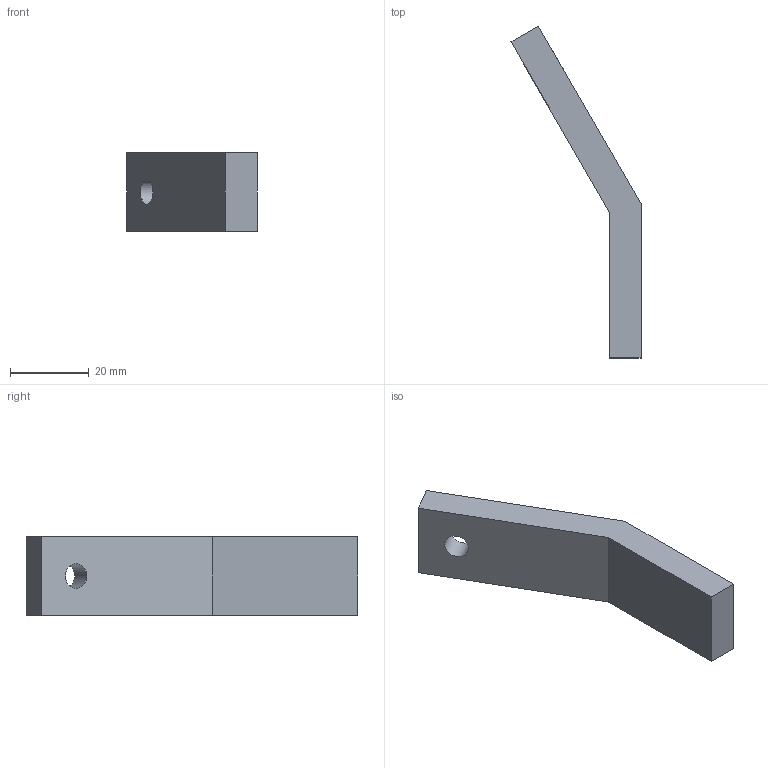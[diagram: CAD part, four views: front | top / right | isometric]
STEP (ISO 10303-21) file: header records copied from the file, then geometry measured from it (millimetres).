
FILE_DESCRIPTION(/* description */ (''),/* implementation_level */ '2;1');
FILE_NAME(/* name */ 'C:\Users\Apardo\Documents\Proyectos\Dietrich\Proyecto 1\PLATE ROLLING MACHINE\STEP\3.3 position 1C.stp',/* time_stamp */ '2020-11-03T20:37:46-04:00',/* author */ ('Apardo'),/* organization */ ('27'),/* preprocessor_version */ 'ST-DEVELOPER v18',/* originating_system */ 'Autodesk Inventor 2020',/* authorisation */ '');
FILE_SCHEMA (('AUTOMOTIVE_DESIGN { 1 0 10303 214 3 1 1 }'));
Length unit declared in the file: millimetre
Products named in the file (1): position 1C
Bounding box: 32.93 x 84.03 x 20 mm (x, y, z)
Volume: 13933.2 mm3; surface area: 5374.4 mm2
Topology: 1 solids, 1 shells, 10 faces, 25 edges, 17 vertices
Faces by surface type: plane 8, cone 1, cylinder 1
Full cylindrical faces by diameter (mm): 6.2 x1
Entity records: 347 total; most frequent: CARTESIAN_POINT 53, DIRECTION 52, ORIENTED_EDGE 50, EDGE_CURVE 25, LINE 20, VECTOR 20, VERTEX_POINT 17, AXIS2_PLACEMENT_3D 16
